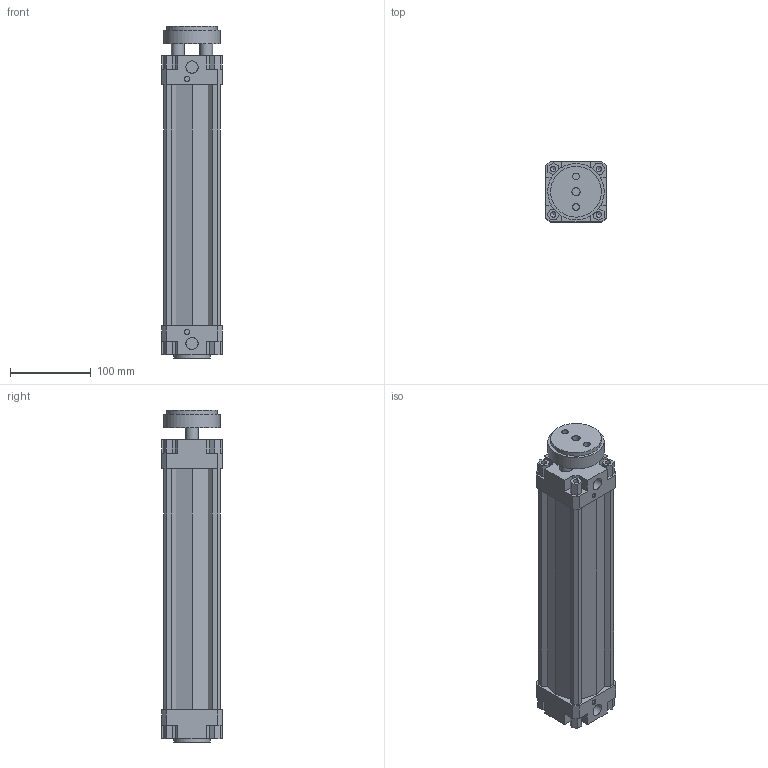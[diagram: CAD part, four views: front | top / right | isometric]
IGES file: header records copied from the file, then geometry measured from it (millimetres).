
Global section: file name: 132#_063_0250_01; native system: Autodesk Inventor 2014; preprocessor: unknown; author: A. Manieri; date: 20161006.160006; units: millimetre
Bounding box: 75 x 75 x 412 mm (x, y, z)
Volume: 1082240.6 mm3; surface area: 261590.5 mm2
Topology: 2 solids, 2 shells, 180 faces, 491 edges, 335 vertices
Faces by surface type: bspline 180
